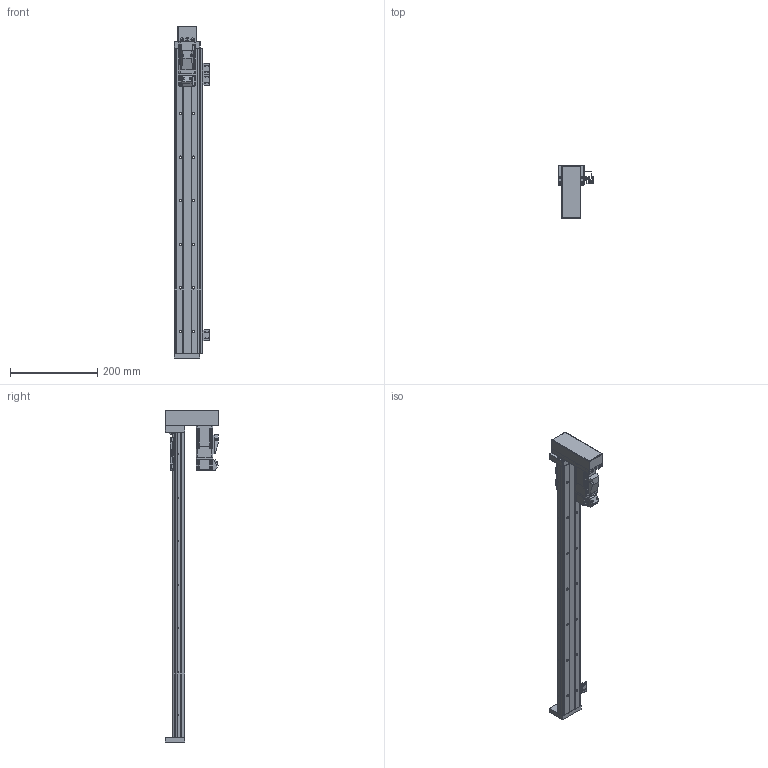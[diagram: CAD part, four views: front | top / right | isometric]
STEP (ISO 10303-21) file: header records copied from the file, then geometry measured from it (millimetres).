
FILE_DESCRIPTION (( 'STEP AP203' ), '1' );
FILE_NAME ('KH60D10C-700A1-H2MS1.STEP', '2022-06-08T07:49:33', ( 'CXY' ), ( 'BT' ), 'SwSTEP 2.0', 'SolidWorks 2016', '' );
FILE_SCHEMA (( 'CONFIG_CONTROL_DESIGN' ));
Length unit declared in the file: millimetre
Products named in the file (22): KK60-02-02; KH60-500; KK60-02-01-H0_KK60-02-01-H0&H1; KH60D10C-700A1-H2MS1; 囀鞠褒す埴芛蹟隊M3℅5; 綴釱; KH60-02-0000; KK60-04-07G; KH86-08-SX674; KK60-01-02-XXXX_KK60-01-02-150; PM-Y65; 鞠褒蹟譫M3; 内六角圆柱头螺钉M3×10; 内六角圆柱头螺钉M3×18; 晦埴芛M3X6蹟隊; 錨璃2; 侂狟萇儂P10B; 216々湍; KK60-02-03; KK60-02-04; B-KK60-A1-F0C; KK60-08-01
Assembly tree (36 placements, depth 3):
  KH60D10C-700A1-H2MS1
    KH60-500
    B-KK60-A1-F0C
      錨璃2
    綴釱
    KH86-08-SX674  x3
      KK60-08-01
      囀鞠褒す埴芛蹟隊M3℅5
      鞠褒蹟譫M3
    KK60-01-02-XXXX_KK60-01-02-150
    KH60-02-0000
      KK60-02-01-H0_KK60-02-01-H0&H1
      KK60-02-02
      KK60-02-03
      内六角圆柱头螺钉M3×18  x4
      侂狟萇儂P10B
      KK60-02-04
      216々湍
      内六角圆柱头螺钉M3×10  x4
      晦埴芛M3X6蹟隊  x4
    KK60-04-07G
    PM-Y65  x3
Bounding box: 82.4 x 123.6 x 762 mm (x, y, z)
Volume: 901413.2 mm3; surface area: 312212.3 mm2
Topology: 42 solids, 42 shells, 2608 faces, 6826 edges, 4391 vertices
Faces by surface type: plane 1353, cylinder 630, bspline 280, cone 271, torus 62, sphere 12
Entity records: 65048 total; most frequent: CARTESIAN_POINT 15836, ORIENTED_EDGE 10106, DIRECTION 8828, EDGE_CURVE 5053, VERTEX_POINT 3318, VECTOR 3180, LINE 3180, AXIS2_PLACEMENT_3D 2824
